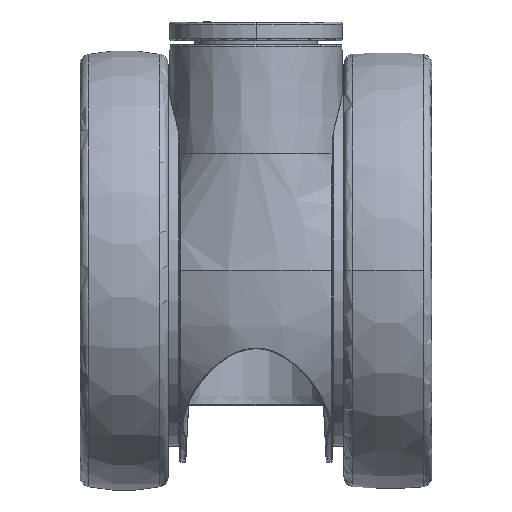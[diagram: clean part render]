
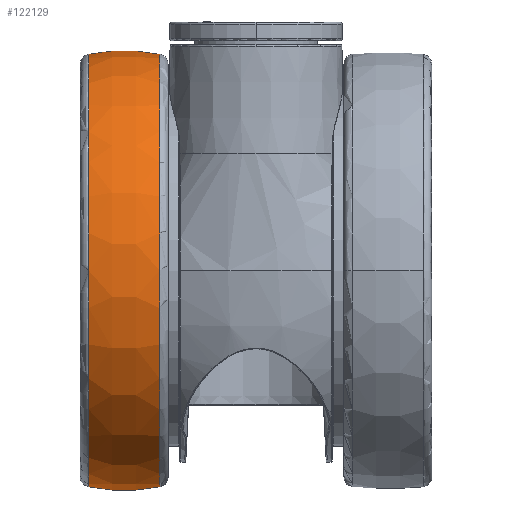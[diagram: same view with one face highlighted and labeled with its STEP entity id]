
A CAD part, left-side view. The second image highlights one B-rep face of the part: STEP entity #122129.
In plain terms, the highlighted toroidal (fillet/blend) face has major radius 7.507 mm and minor radius 30 mm.
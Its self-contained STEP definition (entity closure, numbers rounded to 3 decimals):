
#750 = EDGE_CURVE ( 'NONE', #109092, #104143, #103949, .T. ) ;
#3853 = ORIENTED_EDGE ( 'NONE', *, *, #750, .T. ) ;
#5834 = AXIS2_PLACEMENT_3D ( 'NONE', #59750, #50349, #88555 ) ;
#7464 = EDGE_CURVE ( 'NONE', #51555, #104143, #56548, .T. ) ;
#11242 = CIRCLE ( 'NONE', #81241, 30. ) ;
#11633 = ORIENTED_EDGE ( 'NONE', *, *, #7464, .F. ) ;
#12486 = FACE_OUTER_BOUND ( 'NONE', #48561, .T. ) ;
#13610 = DIRECTION ( 'NONE',  ( 0., 0., -1. ) ) ;
#14864 = DIRECTION ( 'NONE',  ( 0., -1., 0. ) ) ;
#16470 = AXIS2_PLACEMENT_3D ( 'NONE', #34257, #43663, #13610 ) ;
#18203 = CIRCLE ( 'NONE', #104221, 36.893 ) ;
#20040 = CARTESIAN_POINT ( 'NONE',  ( 0., 41.542, -36.893 ) ) ;
#24258 = CARTESIAN_POINT ( 'NONE',  ( 0., 35.5, -7.507 ) ) ;
#28550 = ORIENTED_EDGE ( 'NONE', *, *, #106006, .T. ) ;
#30828 = DIRECTION ( 'NONE',  ( 0., -1., 0. ) ) ;
#32632 = EDGE_CURVE ( 'NONE', #51555, #33202, #18203, .T. ) ;
#33202 = VERTEX_POINT ( 'NONE', #20040 ) ;
#34257 = CARTESIAN_POINT ( 'NONE',  ( 0., 35.5, 7.507 ) ) ;
#37837 = TOROIDAL_SURFACE ( 'NONE', #113795, 7.507, 30. ) ;
#40263 = DIRECTION ( 'NONE',  ( -0.438, 0., -0.899 ) ) ;
#41348 = DIRECTION ( 'NONE',  ( 0., -1., 0. ) ) ;
#42558 = CARTESIAN_POINT ( 'NONE',  ( 0., 35.5, 0. ) ) ;
#43353 = CARTESIAN_POINT ( 'NONE',  ( 0., 41.542, 36.893 ) ) ;
#43663 = DIRECTION ( 'NONE',  ( 1., 0., 0. ) ) ;
#47257 = ORIENTED_EDGE ( 'NONE', *, *, #32632, .T. ) ;
#48561 = EDGE_LOOP ( 'NONE', ( #11633, #47257, #28550, #3853 ) ) ;
#50349 = DIRECTION ( 'NONE',  ( 0., 1., 0. ) ) ;
#51555 = VERTEX_POINT ( 'NONE', #43353 ) ;
#56548 = CIRCLE ( 'NONE', #16470, 30. ) ;
#57160 = CARTESIAN_POINT ( 'NONE',  ( 0., 41.542, 0. ) ) ;
#59750 = CARTESIAN_POINT ( 'NONE',  ( 0., 29.458, 0. ) ) ;
#61006 = CARTESIAN_POINT ( 'NONE',  ( 0., 29.458, -36.893 ) ) ;
#62465 = DIRECTION ( 'NONE',  ( -1., 0., 0. ) ) ;
#71683 = CARTESIAN_POINT ( 'NONE',  ( 0., 29.458, 36.893 ) ) ;
#79522 = DIRECTION ( 'NONE',  ( 0., 0., -1. ) ) ;
#81241 = AXIS2_PLACEMENT_3D ( 'NONE', #24258, #62465, #14864 ) ;
#88555 = DIRECTION ( 'NONE',  ( -0.438, 0., -0.899 ) ) ;
#103949 = CIRCLE ( 'NONE', #5834, 36.893 ) ;
#104143 = VERTEX_POINT ( 'NONE', #71683 ) ;
#104221 = AXIS2_PLACEMENT_3D ( 'NONE', #57160, #30828, #40263 ) ;
#106006 = EDGE_CURVE ( 'NONE', #33202, #109092, #11242, .T. ) ;
#109092 = VERTEX_POINT ( 'NONE', #61006 ) ;
#113795 = AXIS2_PLACEMENT_3D ( 'NONE', #42558, #41348, #79522 ) ;
#122129 = ADVANCED_FACE ( 'NONE', ( #12486 ), #37837, .T. ) ;
